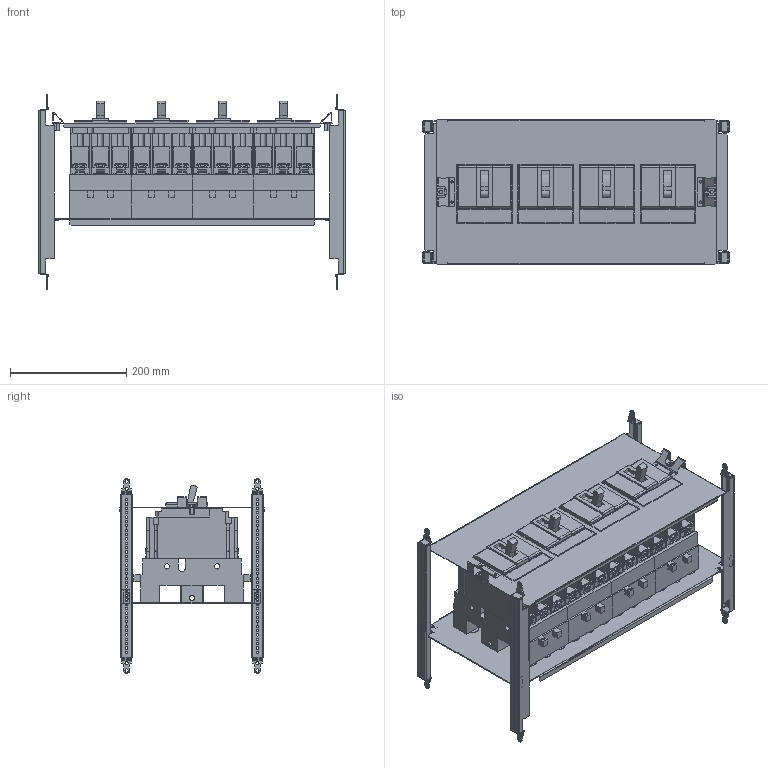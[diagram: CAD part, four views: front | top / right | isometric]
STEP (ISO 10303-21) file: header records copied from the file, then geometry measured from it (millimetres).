
FILE_DESCRIPTION(('CAx-IF Rec.Pracs.---Model Styling and Organization---1.2---2011-12-15','CAx-IF Rec.Pracs.---Geometric and Assembly Validation Properties---4.1---2014-06-16','CAx-IF Rec.Pracs.---PMI Polyline Presentation---2.0---2013-05-24'),'2;1');
FILE_NAME('R5PKIB7V62213 (P).stp','2021-07-29T03:11:51+03:00',(''),(''),'STEP Interface 4.4 by CT CoreTechnologie','3D_Evolution4.4 by CT CoreTechnologie','');
FILE_SCHEMA(('AUTOMOTIVE_DESIGN { 1 0 10303 214 1 1 1 1 }'));
Length unit declared in the file: millimetre
Products named in the file (1): R5PKIB7V62213 (P)
Bounding box: 526 x 248 x 335 mm (x, y, z)
Surface area: 1696635.9 mm2 (no closed solid volume)
Topology: 0 solids, 80 shells, 4394 faces, 12818 edges, 8630 vertices
Faces by surface type: plane 3362, cylinder 860, bspline 172
Entity records: 146780 total; most frequent: CARTESIAN_POINT 27955, ORIENTED_EDGE 25580, DIRECTION 23146, EDGE_CURVE 12802, VECTOR 10760, LINE 10760, VERTEX_POINT 8698, AXIS2_PLACEMENT_3D 6193
